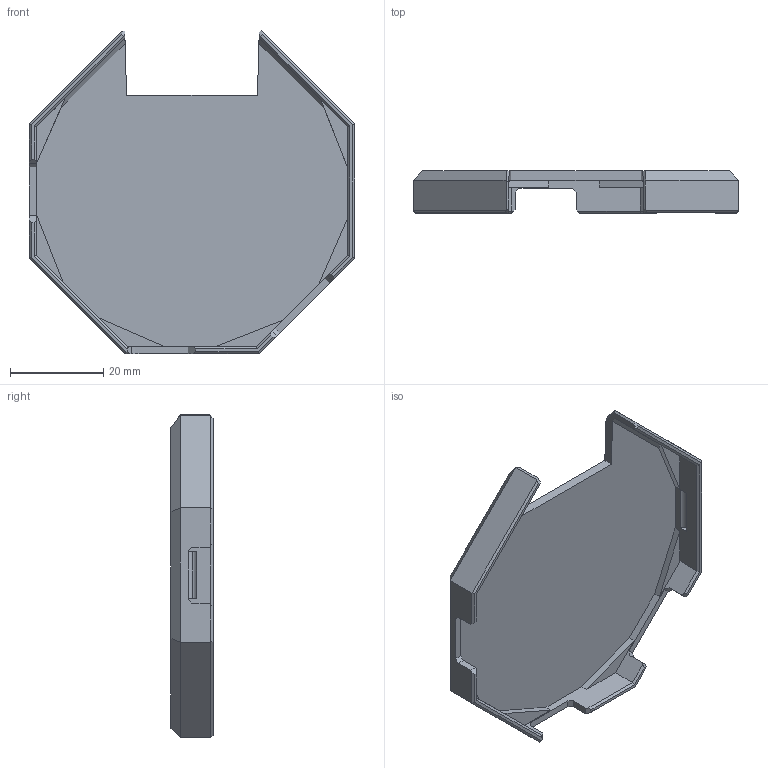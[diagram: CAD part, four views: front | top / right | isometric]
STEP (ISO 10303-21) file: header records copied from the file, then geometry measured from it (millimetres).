
FILE_DESCRIPTION(('FreeCAD Model'),'2;1');
FILE_NAME('D:/2015 new/openBCI/M3 Cad/M3K parts/Board Holder_Cover_no holes.STEP', '2015-11-05T13:35:14',('FreeCAD'),('FreeCAD'), 'Open CASCADE STEP processor 6.3','FreeCAD','Unknown');
FILE_SCHEMA(('AUTOMOTIVE_DESIGN_CC2 { 1 2 10303 214 -1 1 5 4 }'));
Length unit declared in the file: millimetre
Products named in the file (1): Board_Holder_Cover
Bounding box: 69.57 x 9 x 69.17 mm (x, y, z)
Volume: 8688.7 mm3; surface area: 9764.1 mm2
Topology: 1 solids, 1 shells, 107 faces, 285 edges, 184 vertices
Faces by surface type: plane 99, cylinder 8
Entity records: 7359 total; most frequent: CARTESIAN_POINT 1593, DIRECTION 1055, LINE 791, VECTOR 791, ORIENTED_EDGE 570, PCURVE 570, DEFINITIONAL_REPRESENTATION 570, EDGE_CURVE 285
